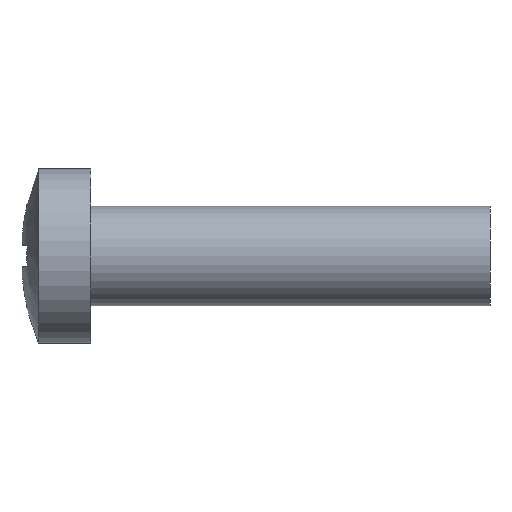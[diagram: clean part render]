
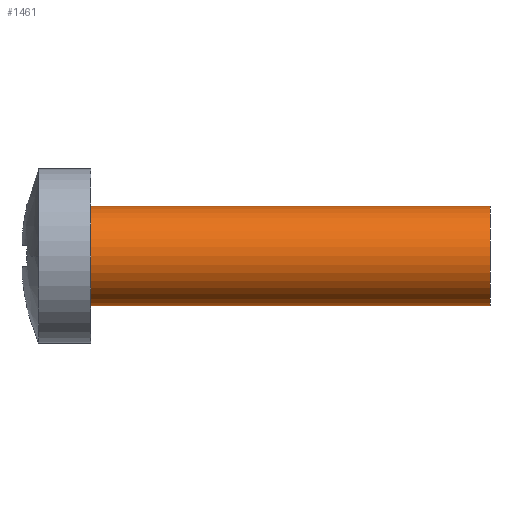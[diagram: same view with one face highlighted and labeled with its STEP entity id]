
A CAD part, front view. The second image highlights one B-rep face of the part: STEP entity #1461.
In plain terms, the highlighted cylindrical face has radius 1 mm (diameter 2 mm), a partial arc.
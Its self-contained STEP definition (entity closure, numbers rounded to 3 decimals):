
#124 = PLANE('',#125);
#125 = AXIS2_PLACEMENT_3D('',#126,#127,#128);
#126 = CARTESIAN_POINT('',(1.4,1.3,0.));
#127 = DIRECTION('',(1.,0.,-0.));
#128 = DIRECTION('',(-0.,0.,-1.));
#212 = VERTEX_POINT('',#213);
#213 = CARTESIAN_POINT('',(1.4,0.,-1.));
#214 = VERTEX_POINT('',#215);
#215 = CARTESIAN_POINT('',(1.4,0.,1.));
#223 = CYLINDRICAL_SURFACE('',#224,1.);
#224 = AXIS2_PLACEMENT_3D('',#225,#226,#227);
#225 = CARTESIAN_POINT('',(4.516,0.,0.));
#226 = DIRECTION('',(1.,-0.,-0.));
#227 = DIRECTION('',(0.,0.,-1.));
#242 = EDGE_CURVE('',#214,#243,#245,.T.);
#243 = VERTEX_POINT('',#244);
#244 = CARTESIAN_POINT('',(9.4,0.,1.));
#245 = SURFACE_CURVE('',#246,(#250,#257),.PCURVE_S1.);
#246 = LINE('',#247,#248);
#247 = CARTESIAN_POINT('',(4.516,0.,1.));
#248 = VECTOR('',#249,1.);
#249 = DIRECTION('',(1.,-0.,-0.));
#250 = PCURVE('',#223,#251);
#251 = DEFINITIONAL_REPRESENTATION('',(#252),#256);
#252 = LINE('',#253,#254);
#253 = CARTESIAN_POINT('',(3.142,0.));
#254 = VECTOR('',#255,1.);
#255 = DIRECTION('',(0.,1.));
#256 = ( GEOMETRIC_REPRESENTATION_CONTEXT(2) 
PARAMETRIC_REPRESENTATION_CONTEXT() REPRESENTATION_CONTEXT('2D SPACE',''
  ) );
#257 = PCURVE('',#258,#263);
#258 = CYLINDRICAL_SURFACE('',#259,1.);
#259 = AXIS2_PLACEMENT_3D('',#260,#261,#262);
#260 = CARTESIAN_POINT('',(4.516,0.,0.));
#261 = DIRECTION('',(1.,-0.,-0.));
#262 = DIRECTION('',(0.,0.,-1.));
#263 = DEFINITIONAL_REPRESENTATION('',(#264),#268);
#264 = LINE('',#265,#266);
#265 = CARTESIAN_POINT('',(3.142,0.));
#266 = VECTOR('',#267,1.);
#267 = DIRECTION('',(0.,1.));
#268 = ( GEOMETRIC_REPRESENTATION_CONTEXT(2) 
PARAMETRIC_REPRESENTATION_CONTEXT() REPRESENTATION_CONTEXT('2D SPACE',''
  ) );
#271 = VERTEX_POINT('',#272);
#272 = CARTESIAN_POINT('',(9.4,0.,-1.));
#287 = PLANE('',#288);
#288 = AXIS2_PLACEMENT_3D('',#289,#290,#291);
#289 = CARTESIAN_POINT('',(9.4,1.,0.));
#290 = DIRECTION('',(1.,0.,-0.));
#291 = DIRECTION('',(-0.,0.,-1.));
#299 = EDGE_CURVE('',#212,#271,#300,.T.);
#300 = SURFACE_CURVE('',#301,(#305,#312),.PCURVE_S1.);
#301 = LINE('',#302,#303);
#302 = CARTESIAN_POINT('',(4.516,0.,-1.));
#303 = VECTOR('',#304,1.);
#304 = DIRECTION('',(1.,-0.,-0.));
#305 = PCURVE('',#223,#306);
#306 = DEFINITIONAL_REPRESENTATION('',(#307),#311);
#307 = LINE('',#308,#309);
#308 = CARTESIAN_POINT('',(0.,0.));
#309 = VECTOR('',#310,1.);
#310 = DIRECTION('',(0.,1.));
#311 = ( GEOMETRIC_REPRESENTATION_CONTEXT(2) 
PARAMETRIC_REPRESENTATION_CONTEXT() REPRESENTATION_CONTEXT('2D SPACE',''
  ) );
#312 = PCURVE('',#258,#313);
#313 = DEFINITIONAL_REPRESENTATION('',(#314),#318);
#314 = LINE('',#315,#316);
#315 = CARTESIAN_POINT('',(6.283,0.));
#316 = VECTOR('',#317,1.);
#317 = DIRECTION('',(0.,1.));
#318 = ( GEOMETRIC_REPRESENTATION_CONTEXT(2) 
PARAMETRIC_REPRESENTATION_CONTEXT() REPRESENTATION_CONTEXT('2D SPACE',''
  ) );
#1440 = EDGE_CURVE('',#243,#271,#1441,.T.);
#1441 = SURFACE_CURVE('',#1442,(#1447,#1454),.PCURVE_S1.);
#1442 = CIRCLE('',#1443,1.);
#1443 = AXIS2_PLACEMENT_3D('',#1444,#1445,#1446);
#1444 = CARTESIAN_POINT('',(9.4,0.,0.));
#1445 = DIRECTION('',(1.,-0.,0.));
#1446 = DIRECTION('',(0.,0.,-1.));
#1447 = PCURVE('',#287,#1448);
#1448 = DEFINITIONAL_REPRESENTATION('',(#1449),#1453);
#1449 = CIRCLE('',#1450,1.);
#1450 = AXIS2_PLACEMENT_2D('',#1451,#1452);
#1451 = CARTESIAN_POINT('',(0.,-1.));
#1452 = DIRECTION('',(1.,0.));
#1453 = ( GEOMETRIC_REPRESENTATION_CONTEXT(2) 
PARAMETRIC_REPRESENTATION_CONTEXT() REPRESENTATION_CONTEXT('2D SPACE',''
  ) );
#1454 = PCURVE('',#258,#1455);
#1455 = DEFINITIONAL_REPRESENTATION('',(#1456),#1460);
#1456 = LINE('',#1457,#1458);
#1457 = CARTESIAN_POINT('',(0.,4.884));
#1458 = VECTOR('',#1459,1.);
#1459 = DIRECTION('',(1.,0.));
#1460 = ( GEOMETRIC_REPRESENTATION_CONTEXT(2) 
PARAMETRIC_REPRESENTATION_CONTEXT() REPRESENTATION_CONTEXT('2D SPACE',''
  ) );
#1461 = ADVANCED_FACE('',(#1462),#258,.T.);
#1462 = FACE_BOUND('',#1463,.T.);
#1463 = EDGE_LOOP('',(#1464,#1465,#1487,#1488));
#1464 = ORIENTED_EDGE('',*,*,#242,.F.);
#1465 = ORIENTED_EDGE('',*,*,#1466,.T.);
#1466 = EDGE_CURVE('',#214,#212,#1467,.T.);
#1467 = SURFACE_CURVE('',#1468,(#1473,#1480),.PCURVE_S1.);
#1468 = CIRCLE('',#1469,1.);
#1469 = AXIS2_PLACEMENT_3D('',#1470,#1471,#1472);
#1470 = CARTESIAN_POINT('',(1.4,0.,0.));
#1471 = DIRECTION('',(1.,-0.,0.));
#1472 = DIRECTION('',(0.,0.,-1.));
#1473 = PCURVE('',#258,#1474);
#1474 = DEFINITIONAL_REPRESENTATION('',(#1475),#1479);
#1475 = LINE('',#1476,#1477);
#1476 = CARTESIAN_POINT('',(0.,-3.116));
#1477 = VECTOR('',#1478,1.);
#1478 = DIRECTION('',(1.,0.));
#1479 = ( GEOMETRIC_REPRESENTATION_CONTEXT(2) 
PARAMETRIC_REPRESENTATION_CONTEXT() REPRESENTATION_CONTEXT('2D SPACE',''
  ) );
#1480 = PCURVE('',#124,#1481);
#1481 = DEFINITIONAL_REPRESENTATION('',(#1482),#1486);
#1482 = CIRCLE('',#1483,1.);
#1483 = AXIS2_PLACEMENT_2D('',#1484,#1485);
#1484 = CARTESIAN_POINT('',(0.,-1.3));
#1485 = DIRECTION('',(1.,0.));
#1486 = ( GEOMETRIC_REPRESENTATION_CONTEXT(2) 
PARAMETRIC_REPRESENTATION_CONTEXT() REPRESENTATION_CONTEXT('2D SPACE',''
  ) );
#1487 = ORIENTED_EDGE('',*,*,#299,.T.);
#1488 = ORIENTED_EDGE('',*,*,#1440,.F.);
